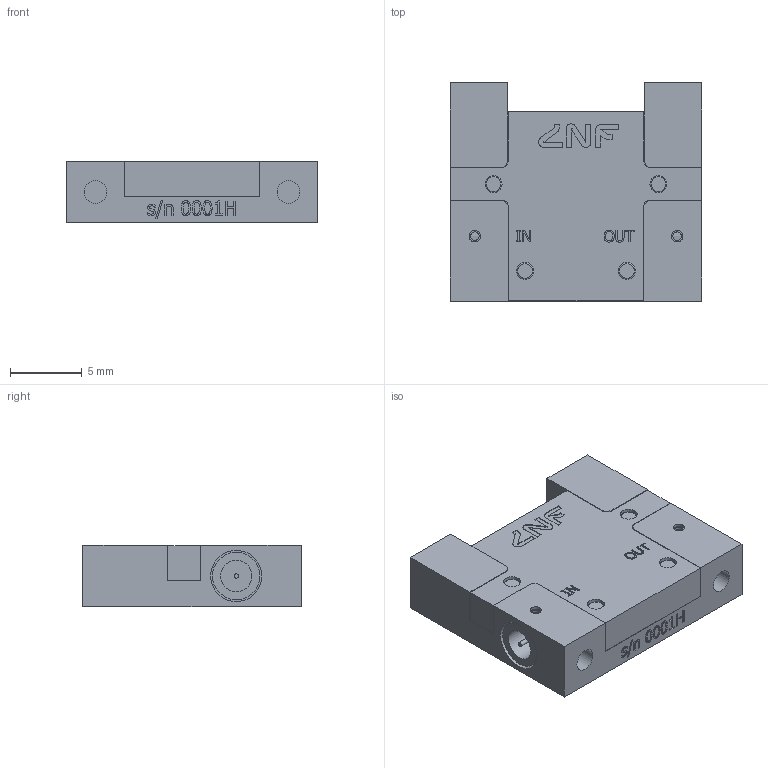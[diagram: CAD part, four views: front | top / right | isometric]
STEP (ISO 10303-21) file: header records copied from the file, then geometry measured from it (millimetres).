
FILE_DESCRIPTION(/* description */ (''),/* implementation_level */ '2;1');
FILE_NAME(/* name */ 'LNF-LNCxxxMG.stp',/* time_stamp */ '2026-09-07T11:00:31+02:00',/* author */ ('JorgenStenarson'),/* organization */ (''),/* preprocessor_version */ 'ST-DEVELOPER v20.1',/* originating_system */ 'Autodesk Inventor 2027',/* authorisation */ '');
FILE_SCHEMA (('AUTOMOTIVE_DESIGN { 1 0 10303 214 3 1 1 }'));
Length unit declared in the file: millimetre
Products named in the file (1): 4_8G Horned GPPO Assembly_Simplify_1
Bounding box: 17.48 x 15.2 x 4.3 mm (x, y, z)
Volume: 968.7 mm3; surface area: 1343 mm2
Topology: 3 solids, 3 shells, 390 faces, 991 edges, 656 vertices
Faces by surface type: plane 235, bspline 81, cylinder 60, cone 14
Full cylindrical faces by diameter (mm): 0.305 x2, 0.6 x2, 0.8 x2, 1.183 x4, 1.4 x4, 1.45 x4, 1.567 x7, 2.184 x4, 2.3 x1, 3.302 x2, 3.556 x2
Entity records: 12816 total; most frequent: CARTESIAN_POINT 3373, ORIENTED_EDGE 1982, DIRECTION 1577, EDGE_CURVE 991, LINE 659, VECTOR 659, VERTEX_POINT 656, AXIS2_PLACEMENT_3D 459
